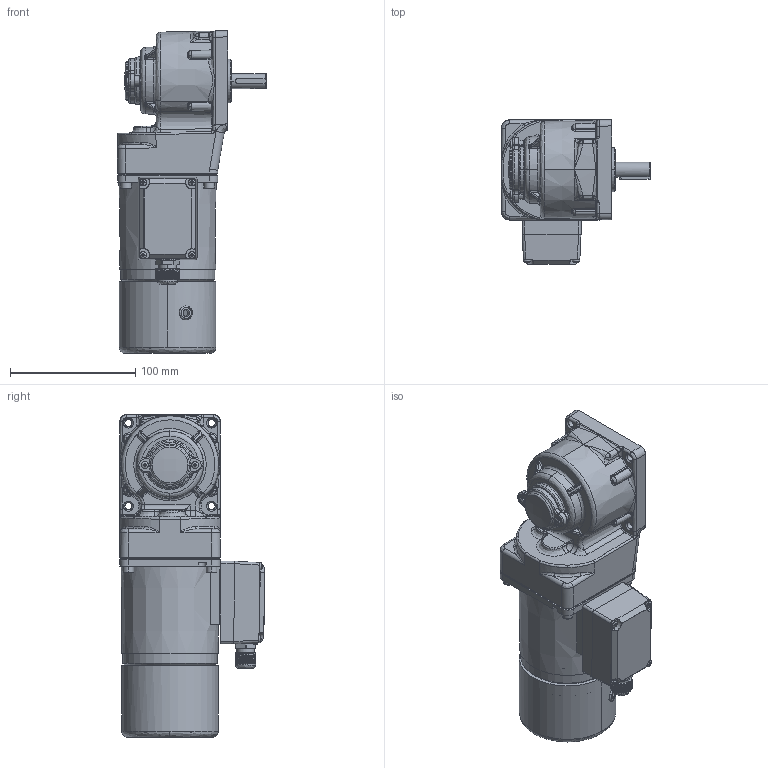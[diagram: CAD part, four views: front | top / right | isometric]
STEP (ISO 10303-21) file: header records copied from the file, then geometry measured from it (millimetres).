
FILE_DESCRIPTION (( 'STEP AP203' ), '1' );
FILE_NAME ('4RK25GN-CMT(4GN3RT-180RT)ÐÂ.STEP', '2022-02-21T07:02:23', ( 'PC' ), ( 'Microsoft' ), 'SwSTEP 2.0', 'SolidWorks 2014', '' );
FILE_SCHEMA (( 'CONFIG_CONTROL_DESIGN' ));
Length unit declared in the file: millimetre
Products named in the file (22): M3^70TSJXHG(2)_80TSJXH; 4RK25A-CM_AF0^4rk25a-cm_asm(2)_80SCZ_1; 80SCZ_1; PRT0035^ASM0002_ASM_ASM_ASM0001_ASM_ASM_4IK25GN-CT-4GN3-180RC_ASM_ASM_4ik25gn-ct-4gn3-180rt_asm(2)_8; PRT0262^4rk25a-cm_asm(2)_80SCZ_1; 80SCHXQ^4rk25a-cm_asm(2)_80SCZ_1; 80眻褒眊裔; PRT0261^4rk25a-cm_asm(2)_80SCZ_1; M14SJQ^70TSJXHG(2)_80TSJXH; zd-4gn1000rc-504-001-20211209（PROE导出的版本）; 80妗陑怀堤粣; 80壔裔; 70TSJXHG(2)^80TSJXH; 80綴傷裔; hexagon socket head cap screws gb_GB_FASTENER_SCREWS_HSHCS M4X12-N; 4RK25GN-CMT(4GN3RT-180RT)陔; cross recessed pan head screws gb_GB_CROSS_SCREWS_TYPE1 M3X6-6  H type-N; 4rk25a-cm_asm(2)^80SCZ_1; 80TSJXHJK; 80TSJK; 80TSJXH; TSJXH^70TSJXHG(2)_80TSJXH
Assembly tree (31 placements, depth 5):
  4RK25GN-CMT(4GN3RT-180RT)陔
    80眻褒眊裔
    zd-4gn1000rc-504-001-20211209（PROE导出的版本）
    80妗陑怀堤粣
    80壔裔
    80綴傷裔
    hexagon socket head cap screws gb_GB_FASTENER_SCREWS_HSHCS M4X12-N  x4
    cross recessed pan head screws gb_GB_CROSS_SCREWS_TYPE1 M3X6-6  H type-N  x2
    80TSJK
      80TSJXHJK
      80TSJXH
        70TSJXHG(2)^80TSJXH
          TSJXH^70TSJXHG(2)_80TSJXH
          M14SJQ^70TSJXHG(2)_80TSJXH
          M3^70TSJXHG(2)_80TSJXH  x4
    PRT0035^ASM0002_ASM_ASM_ASM0001_ASM_ASM_4IK25GN-CT-4GN3-180RC_ASM_ASM_4ik25gn-ct-4gn3-180rt_asm(2)_8  x4
    80SCZ_1
      4rk25a-cm_asm(2)^80SCZ_1
        4RK25A-CM_AF0^4rk25a-cm_asm(2)_80SCZ_1
        PRT0261^4rk25a-cm_asm(2)_80SCZ_1
        PRT0262^4rk25a-cm_asm(2)_80SCZ_1
        80SCHXQ^4rk25a-cm_asm(2)_80SCZ_1
Bounding box: 119 x 115.74 x 257.79 mm (x, y, z)
Volume: 879017.4 mm3; surface area: 214723.4 mm2
Topology: 26 solids, 27 shells, 3404 faces, 7800 edges, 4421 vertices
Faces by surface type: cone 1305, cylinder 1039, plane 538, bspline 512, torus 8, sphere 2
Entity records: 99963 total; most frequent: CARTESIAN_POINT 52369, ORIENTED_EDGE 10072, DIRECTION 8463, EDGE_CURVE 5036, AXIS2_PLACEMENT_3D 3331, VERTEX_POINT 2987, EDGE_LOOP 2285, FACE_OUTER_BOUND 2165
